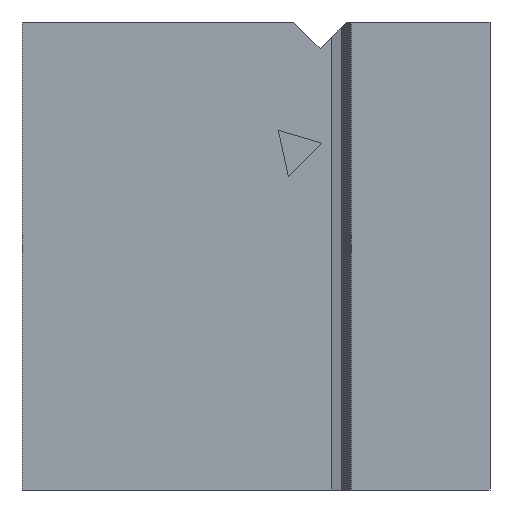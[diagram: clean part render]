
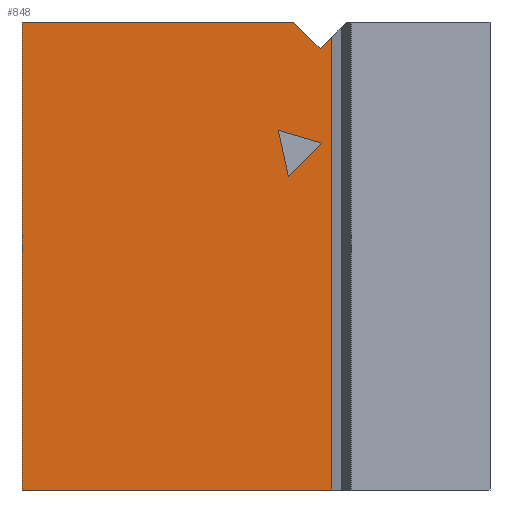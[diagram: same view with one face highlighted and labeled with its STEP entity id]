
A CAD part, left-side view. The second image highlights one B-rep face of the part: STEP entity #848.
In plain terms, the highlighted planar face has unit normal (-1, 0, 0).
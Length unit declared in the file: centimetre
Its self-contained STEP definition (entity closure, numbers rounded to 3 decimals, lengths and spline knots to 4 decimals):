
#13 = CARTESIAN_POINT ( 'NONE',  ( 0., 420.3981, 1000. ) ) ;
#25 = LINE ( 'NONE', #1053, #354 ) ;
#36 = LINE ( 'NONE', #633, #1046 ) ;
#38 = VERTEX_POINT ( 'NONE', #413 ) ;
#53 = EDGE_LOOP ( 'NONE', ( #1094, #833, #242, #605, #170, #661 ) ) ;
#66 = EDGE_CURVE ( 'NONE', #714, #1087, #168, .T. ) ;
#75 = VERTEX_POINT ( 'NONE', #1050 ) ;
#77 = VERTEX_POINT ( 'NONE', #525 ) ;
#91 = DIRECTION ( 'NONE',  ( 0., -1., 0. ) ) ;
#111 = FACE_OUTER_BOUND ( 'NONE', #53, .T. ) ;
#121 = DIRECTION ( 'NONE',  ( 0., 0., -1. ) ) ;
#129 = ORIENTED_EDGE ( 'NONE', *, *, #759, .F. ) ;
#139 = DIRECTION ( 'NONE',  ( 0., 0.959, 0.282 ) ) ;
#164 = CARTESIAN_POINT ( 'NONE',  ( 0., 1000., 1000. ) ) ;
#168 = LINE ( 'NONE', #694, #786 ) ;
#170 = ORIENTED_EDGE ( 'NONE', *, *, #66, .F. ) ;
#189 = DIRECTION ( 'NONE',  ( 0., 0., -1. ) ) ;
#210 = ORIENTED_EDGE ( 'NONE', *, *, #448, .F. ) ;
#242 = ORIENTED_EDGE ( 'NONE', *, *, #929, .T. ) ;
#258 = EDGE_CURVE ( 'NONE', #714, #775, #920, .T. ) ;
#278 = DIRECTION ( 'NONE',  ( 0., -0.214, -0.977 ) ) ;
#282 = DIRECTION ( 'NONE',  ( 0., 0.707, -0.707 ) ) ;
#314 = DIRECTION ( 'NONE',  ( 0., -0.707, 0.707 ) ) ;
#339 = VECTOR ( 'NONE', #1061, 100. ) ;
#354 = VECTOR ( 'NONE', #278, 100. ) ;
#364 = LINE ( 'NONE', #793, #339 ) ;
#365 = DIRECTION ( 'NONE',  ( 1., 0., 0. ) ) ;
#399 = VERTEX_POINT ( 'NONE', #612 ) ;
#403 = CARTESIAN_POINT ( 'NONE',  ( 0., 1000., 0. ) ) ;
#413 = CARTESIAN_POINT ( 'NONE',  ( 0., 363.0682, 942.6701 ) ) ;
#448 = EDGE_CURVE ( 'NONE', #75, #399, #25, .T. ) ;
#460 = FACE_BOUND ( 'NONE', #542, .T. ) ;
#474 = VERTEX_POINT ( 'NONE', #531 ) ;
#490 = EDGE_CURVE ( 'NONE', #775, #474, #364, .T. ) ;
#525 = CARTESIAN_POINT ( 'NONE',  ( 0., 358.9951, 741.0947 ) ) ;
#531 = CARTESIAN_POINT ( 'NONE',  ( 0., 338.785, 0. ) ) ;
#542 = EDGE_LOOP ( 'NONE', ( #210, #129, #667 ) ) ;
#545 = CARTESIAN_POINT ( 'NONE',  ( 0., 1000., 1000. ) ) ;
#554 = LINE ( 'NONE', #640, #907 ) ;
#605 = ORIENTED_EDGE ( 'NONE', *, *, #860, .T. ) ;
#612 = CARTESIAN_POINT ( 'NONE',  ( 0., 430.7098, 669.3801 ) ) ;
#626 = LINE ( 'NONE', #973, #1063 ) ;
#633 = CARTESIAN_POINT ( 'NONE',  ( 0., 363.0682, 942.6701 ) ) ;
#640 = CARTESIAN_POINT ( 'NONE',  ( 0., 358.9951, 741.0947 ) ) ;
#660 = VERTEX_POINT ( 'NONE', #1096 ) ;
#661 = ORIENTED_EDGE ( 'NONE', *, *, #258, .T. ) ;
#667 = ORIENTED_EDGE ( 'NONE', *, *, #690, .F. ) ;
#690 = EDGE_CURVE ( 'NONE', #399, #77, #1091, .T. ) ;
#694 = CARTESIAN_POINT ( 'NONE',  ( 0., 1000., 1000. ) ) ;
#714 = VERTEX_POINT ( 'NONE', #730 ) ;
#721 = PLANE ( 'NONE',  #1119 ) ;
#730 = CARTESIAN_POINT ( 'NONE',  ( 0., 1000., 1000. ) ) ;
#733 = VECTOR ( 'NONE', #1117, 100. ) ;
#759 = EDGE_CURVE ( 'NONE', #77, #75, #554, .T. ) ;
#761 = EDGE_CURVE ( 'NONE', #660, #474, #1103, .T. ) ;
#775 = VERTEX_POINT ( 'NONE', #403 ) ;
#786 = VECTOR ( 'NONE', #91, 100. ) ;
#793 = CARTESIAN_POINT ( 'NONE',  ( 0., 1000., 0. ) ) ;
#807 = DIRECTION ( 'NONE',  ( 0., 0.707, 0.707 ) ) ;
#833 = ORIENTED_EDGE ( 'NONE', *, *, #761, .F. ) ;
#848 = ADVANCED_FACE ( 'NONE', ( #460, #111 ), #721, .F. ) ;
#860 = EDGE_CURVE ( 'NONE', #38, #1087, #36, .T. ) ;
#879 = VECTOR ( 'NONE', #314, 100. ) ;
#891 = VECTOR ( 'NONE', #121, 100. ) ;
#900 = CARTESIAN_POINT ( 'NONE',  ( 0., 338.785, 1000. ) ) ;
#907 = VECTOR ( 'NONE', #139, 100. ) ;
#920 = LINE ( 'NONE', #164, #733 ) ;
#929 = EDGE_CURVE ( 'NONE', #660, #38, #626, .T. ) ;
#973 = CARTESIAN_POINT ( 'NONE',  ( 0., 305.7383, 1000. ) ) ;
#1001 = CARTESIAN_POINT ( 'NONE',  ( 0., 430.7098, 669.3801 ) ) ;
#1046 = VECTOR ( 'NONE', #807, 100. ) ;
#1050 = CARTESIAN_POINT ( 'NONE',  ( 0., 452.4009, 768.5655 ) ) ;
#1053 = CARTESIAN_POINT ( 'NONE',  ( 0., 452.4009, 768.5655 ) ) ;
#1061 = DIRECTION ( 'NONE',  ( 0., -1., 0. ) ) ;
#1063 = VECTOR ( 'NONE', #282, 100. ) ;
#1087 = VERTEX_POINT ( 'NONE', #13 ) ;
#1091 = LINE ( 'NONE', #1001, #879 ) ;
#1094 = ORIENTED_EDGE ( 'NONE', *, *, #490, .T. ) ;
#1096 = CARTESIAN_POINT ( 'NONE',  ( 0., 338.785, 966.9533 ) ) ;
#1103 = LINE ( 'NONE', #900, #891 ) ;
#1117 = DIRECTION ( 'NONE',  ( 0., 0., -1. ) ) ;
#1119 = AXIS2_PLACEMENT_3D ( 'NONE', #545, #365, #189 ) ;
